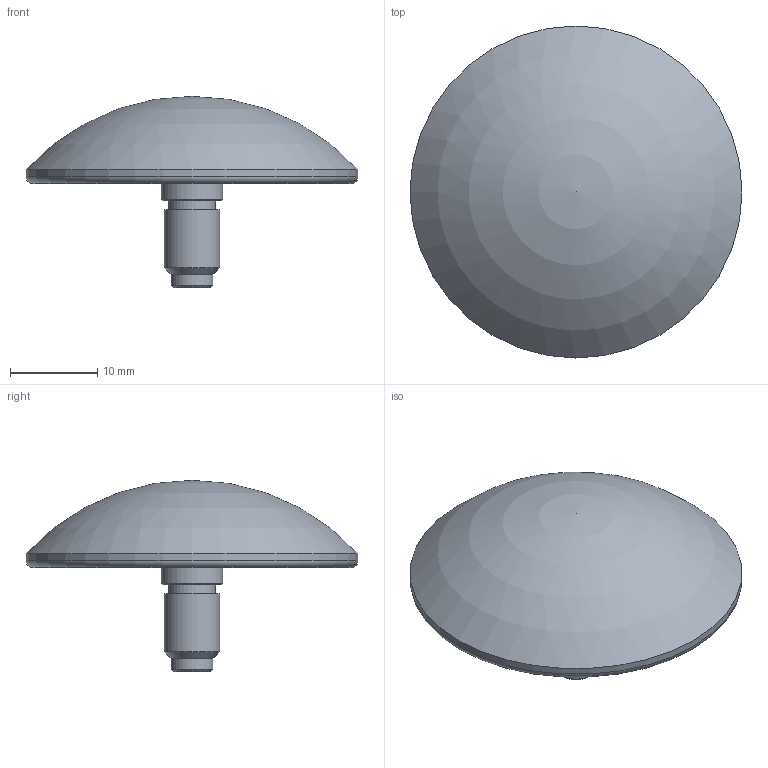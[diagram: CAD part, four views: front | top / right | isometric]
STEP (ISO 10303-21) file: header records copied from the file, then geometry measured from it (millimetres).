
FILE_DESCRIPTION(('Open CASCADE Model'),'2;1');
FILE_NAME('Open CASCADE Shape Model','2026-11-11T21:16:15',('Author'),( 'Open CASCADE'),'Open CASCADE STEP processor 7.9','Open CASCADE 7.9' ,'Unknown');
FILE_SCHEMA(('AUTOMOTIVE_DESIGN { 1 0 10303 214 1 1 1 1 }'));
Length unit declared in the file: millimetre
Products named in the file (1): Open CASCADE STEP translator 7.9 10
Bounding box: 38.1 x 38.1 x 21.95 mm (x, y, z)
Volume: 6449.5 mm3; surface area: 3013 mm2
Topology: 1 solids, 1 shells, 16 faces, 27 edges, 16 vertices
Faces by surface type: cylinder 6, plane 5, cone 3, torus 1, sphere 1
Full cylindrical faces by diameter (mm): 4.8 x1, 5.4 x1, 6.35 x1, 7.1 x1, 33 x1, 38.1 x1
Entity records: 723 total; most frequent: DIRECTION 129, CARTESIAN_POINT 111, ORIENTED_EDGE 52, PCURVE 52, DEFINITIONAL_REPRESENTATION 52, LINE 52, VECTOR 52, AXIS2_PLACEMENT_3D 34
